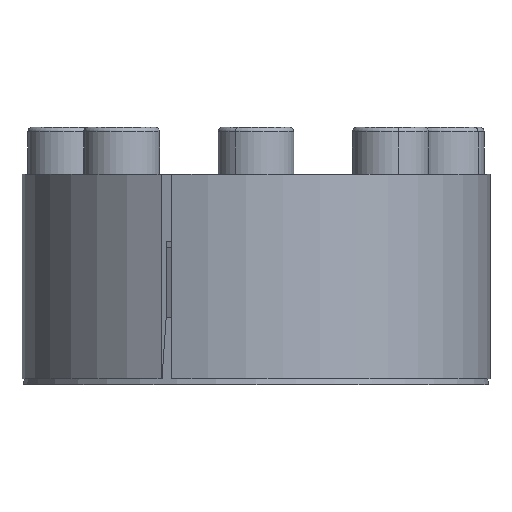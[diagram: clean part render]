
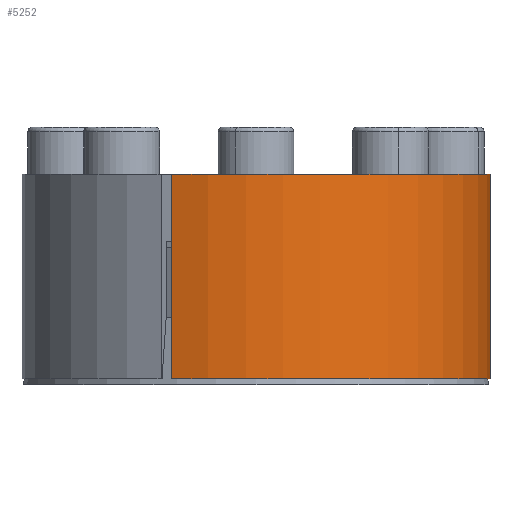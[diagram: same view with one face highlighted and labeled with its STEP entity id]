
A CAD part, front view. The second image highlights one B-rep face of the part: STEP entity #5252.
In plain terms, the highlighted cylindrical face has radius 40 mm (diameter 80 mm), a partial arc.
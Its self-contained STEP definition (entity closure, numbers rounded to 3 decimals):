
#245 = ORIENTED_EDGE ( 'NONE', *, *, #12181, .F. ) ;
#422 = EDGE_CURVE ( 'NONE', #5437, #5138, #2139, .T. ) ;
#579 = DIRECTION ( 'NONE',  ( 0., 0., 1. ) ) ;
#614 = DIRECTION ( 'NONE',  ( -1., 0., 0. ) ) ;
#1905 = VERTEX_POINT ( 'NONE', #5573 ) ;
#2139 = LINE ( 'NONE', #8624, #9636 ) ;
#2219 = EDGE_LOOP ( 'NONE', ( #245, #12680, #6851, #8950 ) ) ;
#2379 = AXIS2_PLACEMENT_3D ( 'NONE', #8548, #2672, #9522 ) ;
#2672 = DIRECTION ( 'NONE',  ( 0., 0., -1. ) ) ;
#3020 = EDGE_CURVE ( 'NONE', #1905, #5437, #7961, .T. ) ;
#3517 = CARTESIAN_POINT ( 'NONE',  ( 0., 0., 1.008 ) ) ;
#4224 = CIRCLE ( 'NONE', #8908, 40. ) ;
#4488 = DIRECTION ( 'NONE',  ( 1., 0., 0. ) ) ;
#5138 = VERTEX_POINT ( 'NONE', #5206 ) ;
#5206 = CARTESIAN_POINT ( 'NONE',  ( -14.379, -37.326, 1.008 ) ) ;
#5252 = ADVANCED_FACE ( 'NONE', ( #12405 ), #6303, .T. ) ;
#5437 = VERTEX_POINT ( 'NONE', #11644 ) ;
#5573 = CARTESIAN_POINT ( 'NONE',  ( 40., 0., 36.008 ) ) ;
#5717 = CARTESIAN_POINT ( 'NONE',  ( 40., 0., 1.008 ) ) ;
#6303 = CYLINDRICAL_SURFACE ( 'NONE', #7418, 40. ) ;
#6590 = LINE ( 'NONE', #5717, #11475 ) ;
#6700 = DIRECTION ( 'NONE',  ( 0., 0., 1. ) ) ;
#6851 = ORIENTED_EDGE ( 'NONE', *, *, #3020, .T. ) ;
#6934 = EDGE_CURVE ( 'NONE', #8675, #1905, #6590, .T. ) ;
#7418 = AXIS2_PLACEMENT_3D ( 'NONE', #9372, #579, #614 ) ;
#7961 = CIRCLE ( 'NONE', #2379, 40. ) ;
#8548 = CARTESIAN_POINT ( 'NONE',  ( 0., 0., 36.008 ) ) ;
#8624 = CARTESIAN_POINT ( 'NONE',  ( -14.379, -37.326, 1.008 ) ) ;
#8675 = VERTEX_POINT ( 'NONE', #8858 ) ;
#8737 = DIRECTION ( 'NONE',  ( 0., 0., -1. ) ) ;
#8858 = CARTESIAN_POINT ( 'NONE',  ( 40., 0., 1.008 ) ) ;
#8908 = AXIS2_PLACEMENT_3D ( 'NONE', #3517, #10355, #4488 ) ;
#8950 = ORIENTED_EDGE ( 'NONE', *, *, #422, .T. ) ;
#9372 = CARTESIAN_POINT ( 'NONE',  ( 0., 0., 1.008 ) ) ;
#9522 = DIRECTION ( 'NONE',  ( 1., 0., 0. ) ) ;
#9636 = VECTOR ( 'NONE', #8737, 1000. ) ;
#10355 = DIRECTION ( 'NONE',  ( 0., 0., -1. ) ) ;
#11475 = VECTOR ( 'NONE', #6700, 1000. ) ;
#11644 = CARTESIAN_POINT ( 'NONE',  ( -14.379, -37.326, 36.008 ) ) ;
#12181 = EDGE_CURVE ( 'NONE', #8675, #5138, #4224, .T. ) ;
#12405 = FACE_OUTER_BOUND ( 'NONE', #2219, .T. ) ;
#12680 = ORIENTED_EDGE ( 'NONE', *, *, #6934, .T. ) ;
